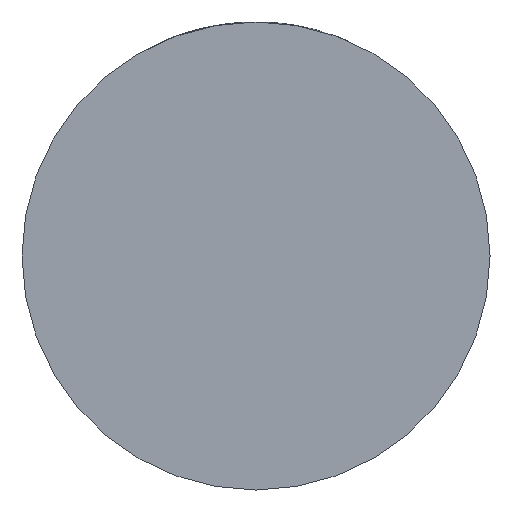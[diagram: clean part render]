
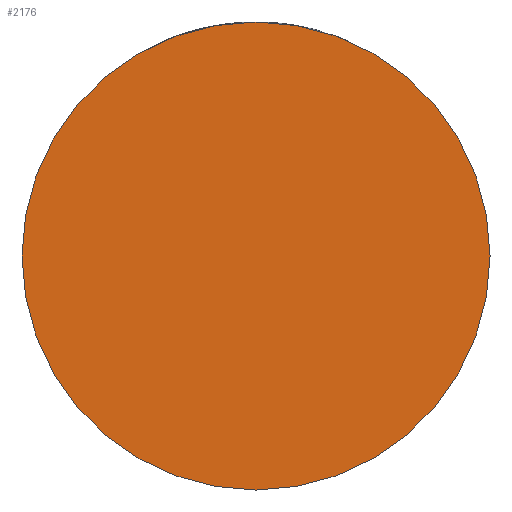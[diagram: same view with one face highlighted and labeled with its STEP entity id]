
A CAD part, front view. The second image highlights one B-rep face of the part: STEP entity #2176.
In plain terms, the highlighted planar face has unit normal (0, -1, 0).
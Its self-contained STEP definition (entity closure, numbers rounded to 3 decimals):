
#136 = CIRCLE ( 'NONE', #1549, 32. ) ;
#267 = EDGE_CURVE ( 'NONE', #308, #1363, #136, .T. ) ;
#308 = VERTEX_POINT ( 'NONE', #4356 ) ;
#437 = AXIS2_PLACEMENT_3D ( 'NONE', #3960, #1895, #1571 ) ;
#445 = DIRECTION ( 'NONE',  ( 1., 0., 0. ) ) ;
#625 = CARTESIAN_POINT ( 'NONE',  ( 0., -25., 0. ) ) ;
#1043 = CARTESIAN_POINT ( 'NONE',  ( 0., -25., 0. ) ) ;
#1100 = ORIENTED_EDGE ( 'NONE', *, *, #267, .T. ) ;
#1363 = VERTEX_POINT ( 'NONE', #1961 ) ;
#1549 = AXIS2_PLACEMENT_3D ( 'NONE', #625, #2676, #2359 ) ;
#1571 = DIRECTION ( 'NONE',  ( 1., 0., 0. ) ) ;
#1720 = AXIS2_PLACEMENT_3D ( 'NONE', #1043, #3506, #445 ) ;
#1895 = DIRECTION ( 'NONE',  ( 0., -1., 0. ) ) ;
#1961 = CARTESIAN_POINT ( 'NONE',  ( -32., -25., 0. ) ) ;
#2176 = ADVANCED_FACE ( 'NONE', ( #3139 ), #4190, .T. ) ;
#2353 = CIRCLE ( 'NONE', #437, 32. ) ;
#2359 = DIRECTION ( 'NONE',  ( 1., 0., 0. ) ) ;
#2676 = DIRECTION ( 'NONE',  ( 0., -1., 0. ) ) ;
#3139 = FACE_OUTER_BOUND ( 'NONE', #3768, .T. ) ;
#3329 = EDGE_CURVE ( 'NONE', #1363, #308, #2353, .T. ) ;
#3506 = DIRECTION ( 'NONE',  ( 0., -1., 0. ) ) ;
#3768 = EDGE_LOOP ( 'NONE', ( #4294, #1100 ) ) ;
#3960 = CARTESIAN_POINT ( 'NONE',  ( 0., -25., 0. ) ) ;
#4190 = PLANE ( 'NONE',  #1720 ) ;
#4294 = ORIENTED_EDGE ( 'NONE', *, *, #3329, .T. ) ;
#4356 = CARTESIAN_POINT ( 'NONE',  ( 32., -25., 0. ) ) ;
